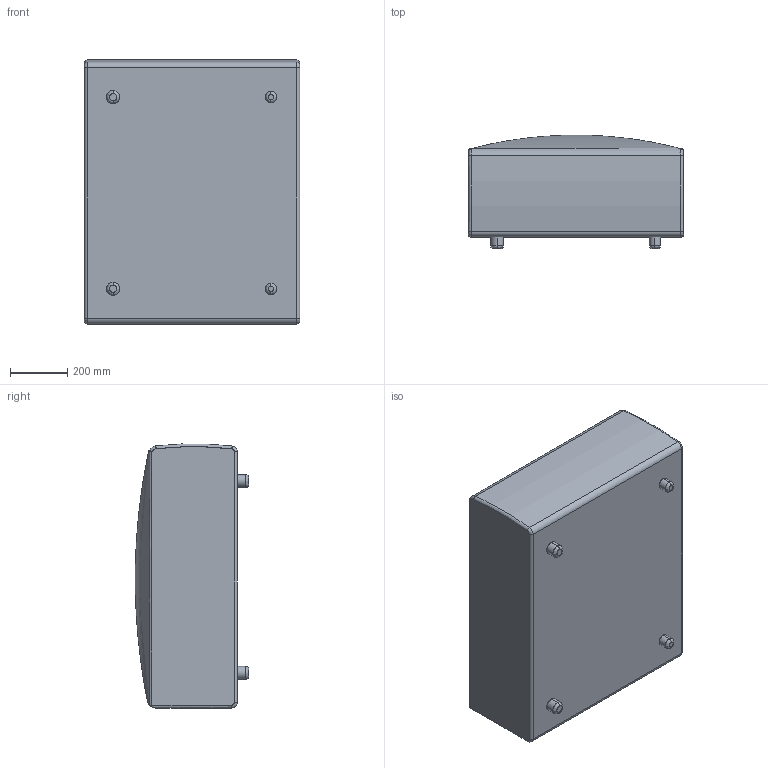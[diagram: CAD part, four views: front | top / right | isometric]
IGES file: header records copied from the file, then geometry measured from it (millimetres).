
Start section: SolidWorks IGES file using analytic representation for surfaces
Global section: file name: \\Logicserver\datos\01-VICCARBE\PRODUCTOS\53-SISTEMA\04-MODELADOS (PLANOS)\WEB\viccarbe-sistema-3D\Modulos\Modulo sin resp grueso.IGS; native system: SolidWorks 2013; preprocessor: SolidWorks 2013; author: bdisenyo; date: 170120.111849; units: millimetre
Bounding box: 750 x 395 x 919.23 mm (x, y, z)
Surface area: 2374046 mm2 (no closed solid volume)
Topology: 0 solids, 0 shells, 54 faces, 780 edges, 780 vertices
Faces by surface type: bspline 28, revolution 26
